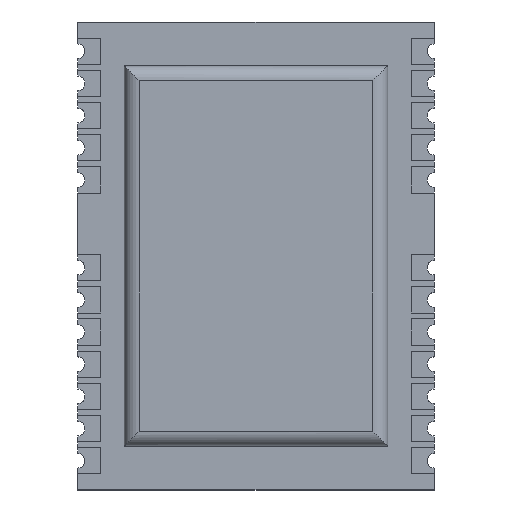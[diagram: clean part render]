
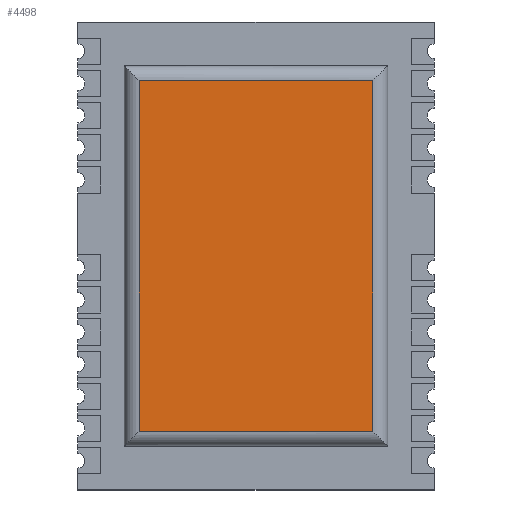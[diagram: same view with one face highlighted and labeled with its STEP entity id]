
A CAD part, top view. The second image highlights one B-rep face of the part: STEP entity #4498.
In plain terms, the highlighted planar face has unit normal (0, 0, 1).
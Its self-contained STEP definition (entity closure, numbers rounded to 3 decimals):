
#927 = FACE_OUTER_BOUND ( 'NONE', #1302, .T. ) ;
#1090 = CARTESIAN_POINT ( 'NONE',  ( -4.5, 6., 2.4 ) ) ;
#1233 = DIRECTION ( 'NONE',  ( 0., 0., 1. ) ) ;
#1302 = EDGE_LOOP ( 'NONE', ( #6970, #4666, #3808, #8871 ) ) ;
#2000 = EDGE_CURVE ( 'NONE', #4214, #9959, #2391, .T. ) ;
#2232 = EDGE_CURVE ( 'NONE', #8329, #4214, #7331, .T. ) ;
#2239 = CARTESIAN_POINT ( 'NONE',  ( 4., -6., 2.4 ) ) ;
#2378 = VECTOR ( 'NONE', #4114, 1000. ) ;
#2391 = LINE ( 'NONE', #10595, #9441 ) ;
#2838 = EDGE_CURVE ( 'NONE', #9959, #7734, #8856, .T. ) ;
#3754 = CARTESIAN_POINT ( 'NONE',  ( 4.5, -6., 2.4 ) ) ;
#3808 = ORIENTED_EDGE ( 'NONE', *, *, #13115, .T. ) ;
#4114 = DIRECTION ( 'NONE',  ( -1., 0., 0. ) ) ;
#4214 = VERTEX_POINT ( 'NONE', #4457 ) ;
#4457 = CARTESIAN_POINT ( 'NONE',  ( -4., 6., 2.4 ) ) ;
#4498 = ADVANCED_FACE ( 'NONE', ( #927 ), #13214, .T. ) ;
#4666 = ORIENTED_EDGE ( 'NONE', *, *, #2838, .T. ) ;
#5238 = CARTESIAN_POINT ( 'NONE',  ( -4., -6., 2.4 ) ) ;
#5310 = VECTOR ( 'NONE', #6967, 1000. ) ;
#5565 = CARTESIAN_POINT ( 'NONE',  ( 4., 6., 2.4 ) ) ;
#6463 = LINE ( 'NONE', #7539, #10353 ) ;
#6967 = DIRECTION ( 'NONE',  ( 1., 0., 0. ) ) ;
#6970 = ORIENTED_EDGE ( 'NONE', *, *, #2000, .T. ) ;
#7331 = LINE ( 'NONE', #1090, #2378 ) ;
#7539 = CARTESIAN_POINT ( 'NONE',  ( 4., 6.5, 2.4 ) ) ;
#7734 = VERTEX_POINT ( 'NONE', #2239 ) ;
#8329 = VERTEX_POINT ( 'NONE', #5565 ) ;
#8483 = CARTESIAN_POINT ( 'NONE',  ( 0., 0., 2.4 ) ) ;
#8612 = DIRECTION ( 'NONE',  ( 0., -1., 0. ) ) ;
#8856 = LINE ( 'NONE', #3754, #5310 ) ;
#8871 = ORIENTED_EDGE ( 'NONE', *, *, #2232, .T. ) ;
#9441 = VECTOR ( 'NONE', #8612, 1000. ) ;
#9959 = VERTEX_POINT ( 'NONE', #5238 ) ;
#10353 = VECTOR ( 'NONE', #10790, 1000. ) ;
#10578 = AXIS2_PLACEMENT_3D ( 'NONE', #8483, #1233, #12684 ) ;
#10595 = CARTESIAN_POINT ( 'NONE',  ( -4., -6.5, 2.4 ) ) ;
#10790 = DIRECTION ( 'NONE',  ( 0., 1., 0. ) ) ;
#12684 = DIRECTION ( 'NONE',  ( 1., 0., 0. ) ) ;
#13115 = EDGE_CURVE ( 'NONE', #7734, #8329, #6463, .T. ) ;
#13214 = PLANE ( 'NONE',  #10578 ) ;
